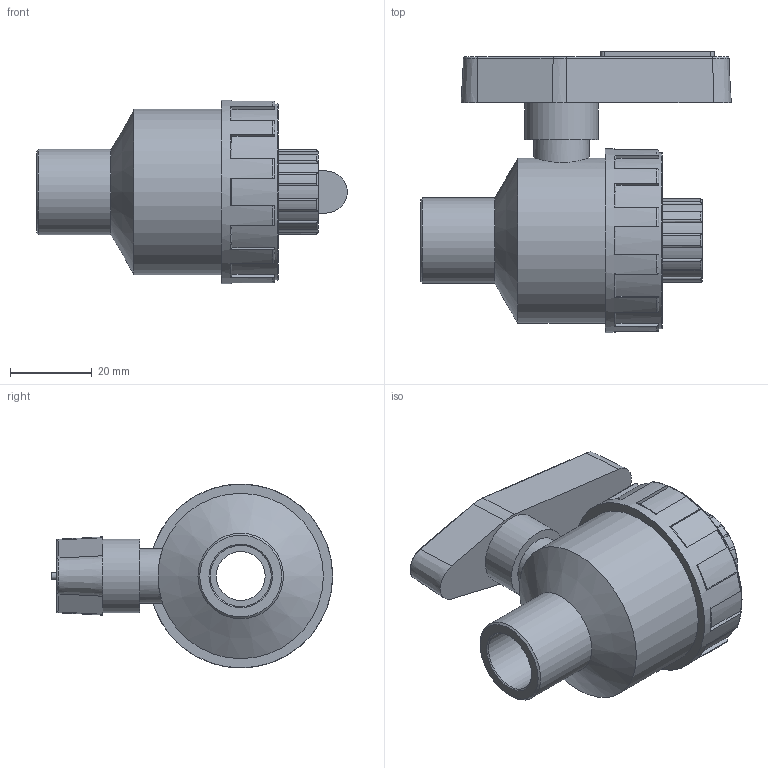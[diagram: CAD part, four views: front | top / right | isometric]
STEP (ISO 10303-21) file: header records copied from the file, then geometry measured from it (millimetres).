
FILE_DESCRIPTION(/* description */ ('PLASSON 1/NUT VALVE FEMALE THREADED 3/8" PVC'),/* implementation_level */ '2;1');
FILE_NAME(/* name */ 'C:\Dropbox\KIMPROJECTS-Inventor\99-16-3568-Processing\PVC Catalog 2017\113510\11351003.ipt.stp',/* time_stamp */ '2017-12-07T16:11:58+02:00',/* author */ ('KIM'),/* organization */ (''),/* preprocessor_version */ 'ST-DEVELOPER v15.6',/* originating_system */ 'Autodesk Inventor 2015',/* authorisation */ '');
FILE_SCHEMA (('AUTOMOTIVE_DESIGN { 1 0 10303 214 3 1 1 }'));
Length unit declared in the file: millimetre
Products named in the file (1): 11351003
Bounding box: 76.07 x 68.85 x 45 mm (x, y, z)
Volume: 66066.7 mm3; surface area: 16531.7 mm2
Topology: 1 solids, 1 shells, 166 faces, 439 edges, 282 vertices
Faces by surface type: plane 64, cylinder 55, torus 29, cone 18
Full cylindrical faces by diameter (mm): 11.96 x1, 13.5 x1, 14.95 x2, 18 x1, 20.93 x1, 40.5 x1, 43.2 x1, 45 x1
Entity records: 5618 total; most frequent: CARTESIAN_POINT 1546, DIRECTION 868, ORIENTED_EDGE 836, EDGE_CURVE 418, AXIS2_PLACEMENT_3D 352, VERTEX_POINT 276, EDGE_LOOP 190, CIRCLE 185
